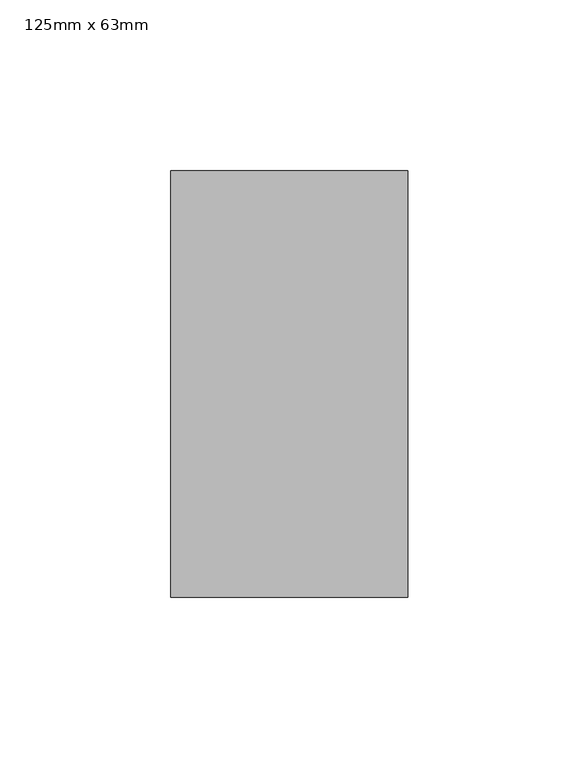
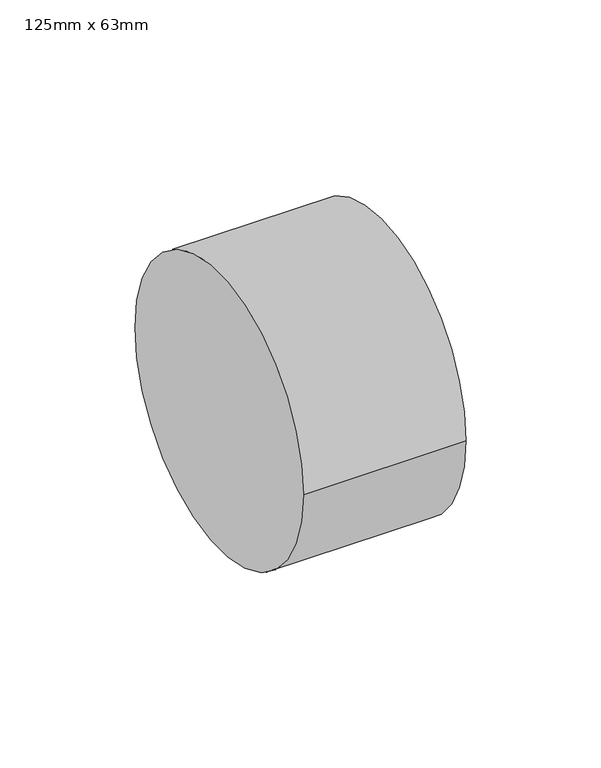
"""IFC4 building model written with IfcOpenShell, lengths in millimetres: pipe fitting geometry, PipeFitting_HTA_CPVC_ConcentricReducingBushes : 125mm x 63mm."""

from ifc_helpers import new_model, si_unit, point, frame, origin, origin_2d, place, context, project, spatial, circle_curve, trimmed, segment, composite_curve, outline, extrude, source, transform, mapped, element, save


def pipe_fitting_125mm_x_63mm_bff711f5(model_context):
    return source(origin(), model_context, "Body", "SweptSolid", [
        extrude(outline(composite_curve([segment(trimmed(circle_curve(origin_2d(), 62.5), [point((-62.5, 0.0))], [point((62.5, 0.0))], False, "CARTESIAN"), True, "CONTINUOUS"), segment(trimmed(circle_curve(origin_2d(), 62.5), [point((62.5, 0.0))], [point((-62.5, 0.0))], False, "CARTESIAN"), True, "CONTINUOUS")], self_intersect=False)), frame((-34.75, 0.0, 0.0), z_axis=(1.0, 0.0, 0.0), x_axis=(0.0, 1.0, 0.0)), (0.0, 0.0, 1.0), 69.5),
    ])


if __name__ == "__main__":
    model = new_model("IFC4")
    model_context = context("Model", 3, world=origin())
    ifc_project = project(units=[si_unit("LENGTHUNIT", "METRE", prefix="MILLI")], contexts=[model_context])
    site = spatial("IfcSite", under=ifc_project)
    building = spatial("IfcBuilding", under=site)
    placement = place(None, origin())
    pipe_fitting_125mm_x_63mm_shape = pipe_fitting_125mm_x_63mm_bff711f5(model_context)
    element("IfcPipeFitting", 1, ObjectType="PipeFitting_HTA_CPVC_ConcentricReducingBushes : 125mm x 63mm", at=placement, inside=building, context=model_context, shape_type="MappedRepresentation", body=[
        mapped(pipe_fitting_125mm_x_63mm_shape, transform((0.0, 0.0, 0.0), x_axis=(1.0, 0.0, 0.0), y_axis=(0.0, 1.0, 0.0), z_axis=(0.0, 0.0, 1.0))),
    ])
    save(model, "model.ifc")
